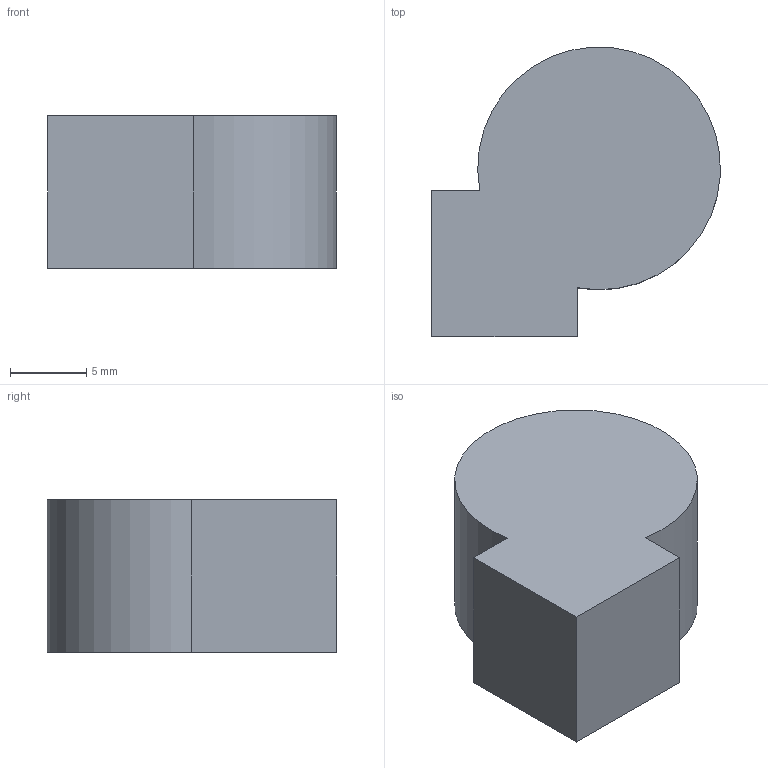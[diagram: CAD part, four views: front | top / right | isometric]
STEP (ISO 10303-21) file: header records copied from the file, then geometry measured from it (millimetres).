
FILE_DESCRIPTION (( 'STEP AP203' ), '1' );
FILE_NAME ('AB86.STEP', '2024-02-16T18:09:06', ( '' ), ( '' ), 'SwSTEP 2.0', 'SolidWorks 2020', '' );
FILE_SCHEMA (( 'CONFIG_CONTROL_DESIGN' ));
Length unit declared in the file: millimetre
Products named in the file (1): AB86
Bounding box: 18.87 x 18.92 x 10 mm (x, y, z)
Volume: 2599.1 mm3; surface area: 1176.8 mm2
Topology: 1 solids, 1 shells, 7 faces, 15 edges, 10 vertices
Faces by surface type: plane 6, cylinder 1
Entity records: 268 total; most frequent: CARTESIAN_POINT 33, DIRECTION 33, ORIENTED_EDGE 30, EDGE_CURVE 15, LINE 13, VECTOR 13, AXIS2_PLACEMENT_3D 10, VERTEX_POINT 10
